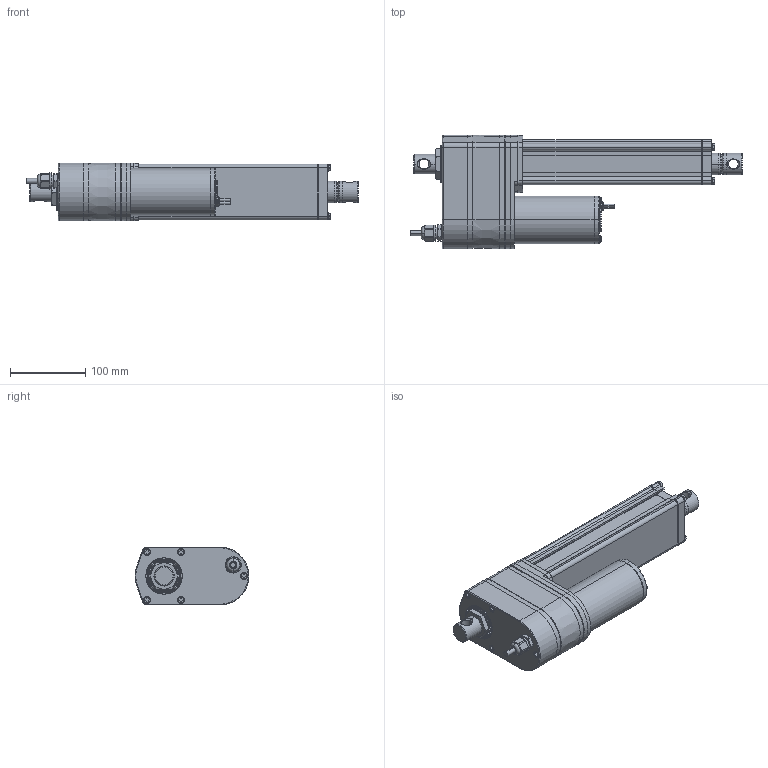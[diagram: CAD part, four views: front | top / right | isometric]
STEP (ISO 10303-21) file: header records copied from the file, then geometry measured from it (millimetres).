
FILE_DESCRIPTION((''),' ');
FILE_NAME('dszy12-150_lt_ltpot_lths.stp',' ',('MSW'),('MSW'),' ','ACIS 14.0',' ');
FILE_SCHEMA(('automotive_design'));
Length unit declared in the file: inch
Products named in the file (2): dszy12-150_lt_ltpot_lths
Bounding box: 442 x 151.7 x 77.2 mm (x, y, z)
Volume: 2361445 mm3; surface area: 234223.7 mm2
Topology: 2 solids, 2 shells, 1687 faces, 4097 edges, 2434 vertices
Faces by surface type: plane 1327, cylinder 232, cone 64, torus 40, bspline 24
Entity records: 62295 total; most frequent: CARTESIAN_POINT 8791, DIRECTION 8725, ORIENTED_EDGE 8146, EDGE_CURVE 4073, AXIS2_PLACEMENT_3D 3043, LINE 2639, VECTOR 2639, VERTEX_POINT 2434
